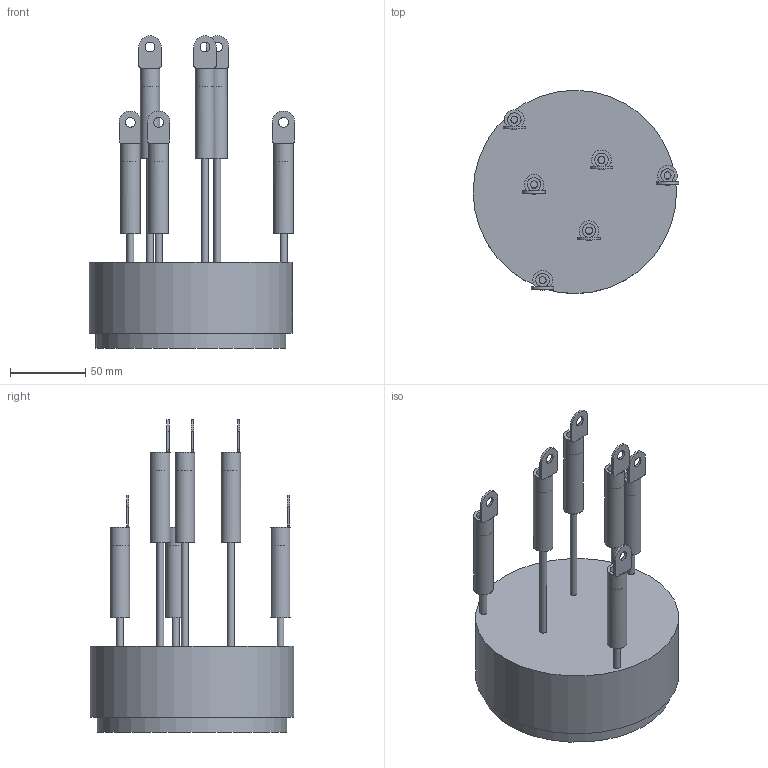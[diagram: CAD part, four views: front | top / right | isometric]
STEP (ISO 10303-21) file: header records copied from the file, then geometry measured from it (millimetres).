
FILE_DESCRIPTION(/* description */ (''),/* implementation_level */ '2;1');
FILE_NAME(/* name */ 'F:\2016年工作\2016年产品图纸\VAC\X2\4EA754C1\X0\3D模型\产品3D模型\6123-X311\6123-X3113D model.stp',/* time_stamp */ '2016-07-13T14:39:29+08:00',/* author */ ('cn000560'),/* organization */ (''),/* preprocessor_version */ 'ST-DEVELOPER v16.1',/* originating_system */ 'Autodesk Inventor 2016',/* authorisation */ '');
FILE_SCHEMA (('AUTOMOTIVE_DESIGN { 1 0 10303 214 3 1 1 }'));
Length unit declared in the file: centimetre
Products named in the file (1): 6123-X3113D model
Bounding box: 136.55 x 135 x 207.5 mm (x, y, z)
Volume: 820978.8 mm3; surface area: 93808 mm2
Topology: 7 solids, 7 shells, 125 faces, 282 edges, 178 vertices
Faces by surface type: plane 75, cylinder 50
Full cylindrical faces by diameter (mm): 4.6 x6, 6.5 x6, 9 x6, 12 x6, 13 x6, 126 x1, 135 x1
Entity records: 3268 total; most frequent: DIRECTION 608, CARTESIAN_POINT 518, ORIENTED_EDGE 464, AXIS2_PLACEMENT_3D 250, EDGE_CURVE 232, EDGE_LOOP 188, VERTEX_POINT 160, FACE_OUTER_BOUND 125
